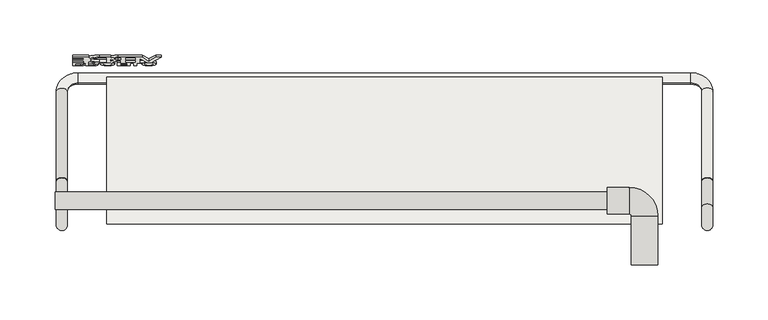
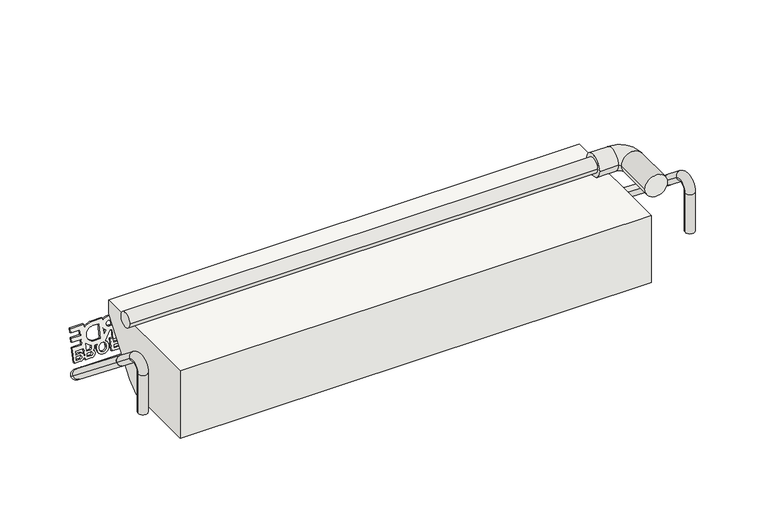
"""IFC4 building model written with IfcOpenShell, lengths in millimetres: covering geometry, panel VP Modulo prova ultima texture : panel VP Modulo prova ultima texture."""

from ifc_helpers import new_model, si_unit, point, frame, frame_2d, origin, place, context, project, spatial, polyline, circle_curve, ellipse_curve, trimmed, segment, composite_curve, outline, extrude, source, transform, mapped, element, save
from ifc_brep_helpers import plane_surface, cylinder_surface, revolved_surface, advanced_brep


def covering_7bb15b48(model_context):
    return source(origin(), model_context, "Body", "SolidModel", [
        extrude(outline(composite_curve([segment(polyline([(34.7220757, 1e-07), (58.7996812, 1e-07)]), True, "CONTINUOUS"), segment(trimmed(circle_curve(frame_2d((65.0642789, 0.6025231)), 6.293506), [point((58.7996812, 1e-07))], [point((63.4156114, 6.6762463))], False, "CARTESIAN"), True, "CONTINUOUS"), segment(trimmed(circle_curve(frame_2d((65.6666707, 0.6823429)), 6.4026671), [point((63.4156114, 6.6762463))], [point((68.2653756, -5.1692277))], False, "CARTESIAN"), True, "CONTINUOUS"), segment(trimmed(circle_curve(frame_2d((65.2033193, 0.2002614)), 6.1812298), [point((68.2653756, -5.1692277))], [point((64.2093266, -5.9005239))], False, "CARTESIAN"), True, "CONTINUOUS"), segment(polyline([(64.2093266, -5.9005239), (66.3168223, -11.0476864), (75.8016954, -7.1641235), (76.862281, -9.7544045), (66.3136897, -14.0735049), (67.4636632, -16.8820993), (78.0122546, -12.5629989), (79.0728401, -15.1532799), (68.5242488, -19.4723803), (70.7348079, -24.8712557), (61.6931831, -28.5733316), (62.6270622, -30.8541559), (73.074875, -33.0832315)]), True, "CONTINUOUS"), segment(trimmed(circle_curve(frame_2d((79.2445531, -34.0648778)), 6.247284), [point((73.074875, -33.0832315))], [point((77.6263487, -28.0308102))], False, "CARTESIAN"), True, "CONTINUOUS"), segment(trimmed(circle_curve(frame_2d((79.877408, -34.0247135)), 6.4026671), [point((77.6263487, -28.0308102))], [point((82.4790998, -39.8749568))], False, "CARTESIAN"), True, "CONTINUOUS"), segment(trimmed(circle_curve(frame_2d((79.4067188, -34.4842118)), 6.2048092), [point((82.4790998, -39.8749568))], [point((77.0112197, -40.2079554))], False, "CARTESIAN"), True, "CONTINUOUS"), segment(polyline([(77.0112197, -40.2079554), (78.1993614, -43.1097684)]), True, "CONTINUOUS"), segment(trimmed(circle_curve(frame_2d((66.5130174, -47.6019204)), 12.5199867), [point((78.1993614, -43.1097684))], [point((78.4709528, -43.8927628))], False, "CARTESIAN"), True, "CONTINUOUS"), segment(polyline([(78.4709528, -43.8927628), (79.5384706, -43.4513167)]), True, "CONTINUOUS"), segment(trimmed(circle_curve(frame_2d((81.1236563, -46.5289178)), 3.4618554), [point((79.5384706, -43.4513167))], [point((83.2640668, -43.8080565))], False, "CARTESIAN"), True, "CONTINUOUS"), segment(trimmed(circle_curve(frame_2d((86.9930546, -44.5041075)), 3.7933939), [point((83.2640668, -43.8080565))], [point((90.5427255, -43.1663204))], False, "CARTESIAN"), True, "CONTINUOUS"), segment(polyline([(90.5427255, -43.1663204), (93.2835774, -49.8603364), (82.7349861, -54.1794367), (86.0955188, -62.3869066), (89.2825225, -61.0819941), (87.602256, -56.9782588)]), True, "CONTINUOUS"), segment(trimmed(circle_curve(frame_2d((91.2496312, -55.4763574)), 3.9444966), [point((87.602256, -56.9782588))], [point((87.6394877, -53.887044))], False, "CARTESIAN"), True, "CONTINUOUS"), segment(trimmed(circle_curve(frame_2d((91.0795376, -55.4029608)), 3.7592483), [point((87.6394877, -53.887044))], [point((89.8068057, -51.8657159))], False, "CARTESIAN"), True, "CONTINUOUS"), segment(trimmed(circle_curve(frame_2d((91.3826275, -55.3791794)), 3.8506675), [point((89.8068057, -51.8657159))], [point((94.9638437, -53.9640712))], False, "CARTESIAN"), True, "CONTINUOUS"), segment(polyline([(94.9638437, -53.9640712), (97.7046957, -60.6580873), (83.1186527, -66.6303144), (79.3291228, -57.3750995), (74.3249248, -59.4240587), (78.1144547, -68.6792736), (74.077003, -70.3324004), (70.2874731, -61.0771855), (65.283275, -63.1261447), (69.0728049, -72.3813597), (65.0353533, -74.0344865), (59.5536495, -60.6464545), (63.573194, -59.0006598)]), True, "CONTINUOUS"), segment(trimmed(circle_curve(frame_2d((67.4307018, -47.253167)), 12.364625), [point((63.573194, -59.0006598))], [point((55.9786182, -51.9151121))], False, "CARTESIAN"), True, "CONTINUOUS"), segment(polyline([(55.9786182, -51.9151121), (51.9745896, -42.1360244), (54.8949193, -40.940301)]), True, "CONTINUOUS"), segment(trimmed(circle_curve(frame_2d((56.8950264, -33.2916253)), 7.9058629), [point((54.8949193, -40.940301))], [point((49.6285766, -36.4063284))], False, "CARTESIAN"), True, "CONTINUOUS"), segment(polyline([(49.6285766, -36.4063284), (41.3068641, -16.0821087), (53.1289126, -4.45118), (36.5446028, -4.4511801), (34.7220757, 1e-07)]), True, "CONTINUOUS")], self_intersect=False), holes=[composite_curve([segment(polyline([(91.3698144, -60.2273564), (94.5568181, -58.9224439), (93.0429626, -55.2251362)]), True, "CONTINUOUS"), segment(trimmed(circle_curve(frame_2d((91.4494608, -55.8775924)), 1.7219023), [point((93.0429626, -55.2251362))], [point((89.8559589, -56.5300487))], True, "CARTESIAN"), True, "CONTINUOUS"), segment(polyline([(89.8559589, -56.5300487), (91.3698144, -60.2273564)]), True, "CONTINUOUS")], self_intersect=False), composite_curve([segment(polyline([(77.6536647, -53.2354382), (84.8614042, -50.2842432), (83.4804082, -46.9114198)]), True, "CONTINUOUS"), segment(trimmed(circle_curve(frame_2d((82.0055188, -47.9798171)), 1.8212006), [point((83.4804082, -46.9114198))], [point((81.4459172, -46.2467223))], True, "CARTESIAN"), True, "CONTINUOUS"), segment(polyline([(81.4459172, -46.2467223), (79.005401, -46.7813864)]), True, "CONTINUOUS"), segment(trimmed(circle_curve(frame_2d((66.800009, -47.5936694)), 12.2323913), [point((79.005401, -46.7813864))], [point((77.6536647, -53.2354382))], False, "CARTESIAN"), True, "CONTINUOUS")], self_intersect=False), composite_curve([segment(polyline([(80.0469884, -37.8463889), (81.818283, -37.1211357)]), True, "CONTINUOUS"), segment(trimmed(circle_curve(frame_2d((80.3714599, -33.822414)), 3.6020635), [point((81.818283, -37.1211357))], [point((79.0874461, -30.4569764))], True, "CARTESIAN"), True, "CONTINUOUS"), segment(polyline([(79.0874461, -30.4569764), (77.318043, -31.1814551)]), True, "CONTINUOUS"), segment(trimmed(circle_curve(frame_2d((78.7640582, -34.4805345)), 3.6020668), [point((77.318043, -31.1814551))], [point((80.0469884, -37.8463889))], True, "CARTESIAN"), True, "CONTINUOUS")], self_intersect=False), composite_curve([segment(polyline([(64.8767089, 4.25008), (63.1073057, 3.5256013)]), True, "CONTINUOUS"), segment(trimmed(circle_curve(frame_2d((64.5533209, 0.2265218)), 3.6020668), [point((63.1073057, 3.5256013))], [point((65.8362512, -3.1393324))], True, "CARTESIAN"), True, "CONTINUOUS"), segment(polyline([(65.8362512, -3.1393324), (67.6075457, -2.4140793)]), True, "CONTINUOUS"), segment(trimmed(circle_curve(frame_2d((66.1607226, 0.8846424)), 3.6020635), [point((67.6075457, -2.4140793))], [point((64.8767089, 4.25008))], True, "CARTESIAN"), True, "CONTINUOUS")], self_intersect=False), composite_curve([segment(polyline([(49.3862171, -14.3776131), (62.966359, -8.8172502), (61.7031824, -5.7321785), (62.543491, -5.3881158)]), True, "CONTINUOUS"), segment(trimmed(circle_curve(frame_2d((65.2914898, 0.489271)), 6.4880792), [point((62.543491, -5.3881158))], [point((60.2929855, -3.647168))], False, "CARTESIAN"), True, "CONTINUOUS"), segment(polyline([(60.2929855, -3.647168), (49.3862171, -14.3776131)]), True, "CONTINUOUS")], self_intersect=False), polyline([(47.598802, -19.9351411), (50.9593347, -28.1426109), (55.9635327, -26.0936517), (52.603, -17.8861818), (47.598802, -19.9351411)]), polyline([(60.0009844, -24.4405249), (65.0051824, -22.3915657), (61.6446497, -14.1840958), (56.6404517, -16.233055), (60.0009844, -24.4405249)]), composite_curve([segment(polyline([(52.6514048, -32.2754702), (53.692025, -34.8169896)]), True, "CONTINUOUS"), segment(trimmed(circle_curve(frame_2d((56.2265541, -33.8697215)), 2.7057631), [point((53.692025, -34.8169896))], [point((58.6823172, -32.7337722))], True, "CARTESIAN"), True, "CONTINUOUS"), segment(polyline([(58.6823172, -32.7337722), (57.6557066, -30.2264686), (52.6514048, -32.2754702)]), True, "CONTINUOUS")], self_intersect=False), composite_curve([segment(polyline([(62.001845, -38.030384), (66.4600603, -36.2049764), (63.0935891, -35.4866796)]), True, "CONTINUOUS"), segment(trimmed(circle_curve(frame_2d((53.8245829, -33.0146099)), 9.5929977), [point((63.0935891, -35.4866796))], [point((62.001845, -38.030384))], False, "CARTESIAN"), True, "CONTINUOUS")], self_intersect=False), composite_curve([segment(polyline([(57.7042151, -44.6157146), (60.0160697, -50.2619853)]), True, "CONTINUOUS"), segment(trimmed(circle_curve(frame_2d((67.1061304, -47.5504315)), 7.5908816), [point((60.0160697, -50.2619853))], [point((74.0619175, -44.51094))], True, "CARTESIAN"), True, "CONTINUOUS"), segment(polyline([(74.0619175, -44.51094), (71.7500629, -38.8646693), (57.7042151, -44.6157146)]), True, "CONTINUOUS")], self_intersect=False), composite_curve([segment(polyline([(86.9486962, -49.4296055), (90.1356999, -48.124693), (88.6218444, -44.4273853)]), True, "CONTINUOUS"), segment(trimmed(circle_curve(frame_2d((87.0283425, -45.0798416)), 1.7219023), [point((88.6218444, -44.4273853))], [point((85.4348407, -45.7322978))], True, "CARTESIAN"), True, "CONTINUOUS"), segment(polyline([(85.4348407, -45.7322978), (86.9486962, -49.4296055)]), True, "CONTINUOUS")], self_intersect=False)]), frame((-189.083657, 210.3688908, 479.4713363), z_axis=(0.0, -0.9769248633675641, 0.21358326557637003), x_axis=(-0.3789159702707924, -0.19765659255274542, -0.9040766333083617)), (0.0, 0.0, 1.0), 2.0),
        extrude(outline(polyline([(76.2116947, -23.2064962), (79.3986984, -21.9015837), (77.1881392, -16.5027082), (79.2754312, -15.6480706), (82.5465759, -23.6372271), (70.9744162, -28.3754256), (69.9138306, -25.7851445), (74.1244027, -24.0611338), (71.9138436, -18.6622584), (74.0011355, -17.8076207), (76.2116947, -23.2064962)])), frame((-189.083657, 210.3688908, 479.4713363), z_axis=(0.0, -0.9769248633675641, 0.21358326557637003), x_axis=(-0.3789159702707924, -0.19765659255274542, -0.9040766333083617)), (0.0, 0.0, 1.0), 2.0),
        advanced_brep(
        [(-298.2404059, 63.5015434, 543.1813202), (-298.2404059, 79.5015434, 543.1813202), (201.5404059, 63.5015434, 543.1813202), (201.5404059, 79.5015434, 543.1813202), (201.5404059, 59.5015434, 543.1813202), (201.5404059, 83.5015434, 543.1813202), (221.5404059, 59.5015434, 543.1813202), (221.5404059, 83.5015434, 543.1813202), (223.5404059, 57.5015434, 543.1813202), (247.5404059, 57.5015434, 543.1813202), (223.5404059, 13.5015434, 543.1813202), (247.5404059, 13.5015434, 543.1813202)],
        [
            (0, 1, circle_curve(frame((-298.2404059, 71.5015434, 543.1813202), z_axis=(-1.0, 0.0, 0.0), x_axis=(0.0, 1.0, 0.0)), 8.0)),
            (1, 0, circle_curve(frame((-298.2404059, 71.5015434, 543.1813202), z_axis=(-1.0, 0.0, 0.0), x_axis=(0.0, 1.0, 0.0)), 8.0)),
            (0, 2),
            (2, 3, circle_curve(frame((201.5404059, 71.5015434, 543.1813202), z_axis=(-1.0, 0.0, 0.0), x_axis=(0.0, 1.0, 0.0)), 8.0)),
            (3, 1),
            (3, 2, circle_curve(frame((201.5404059, 71.5015434, 543.1813202), z_axis=(-1.0, 0.0, 0.0), x_axis=(0.0, 1.0, 0.0)), 8.0)),
            (4, 5, circle_curve(frame((201.5404059, 71.5015434, 543.1813202), z_axis=(-1.0, 0.0, 0.0), x_axis=(0.0, 1.0, 0.0)), 12.0)),
            (5, 4, circle_curve(frame((201.5404059, 71.5015434, 543.1813202), z_axis=(-1.0, 0.0, 0.0), x_axis=(0.0, 1.0, 0.0)), 12.0)),
            (4, 6),
            (6, 7, circle_curve(frame((221.5404059, 71.5015434, 543.1813202), z_axis=(-1.0, 0.0, 0.0), x_axis=(0.0, 1.0, 0.0)), 12.0)),
            (7, 5),
            (7, 6, circle_curve(frame((221.5404059, 71.5015434, 543.1813202), z_axis=(-1.0, 0.0, 0.0), x_axis=(0.0, 1.0, 0.0)), 12.0)),
            (6, 8, circle_curve(frame((221.5404059, 57.5015434, 543.1813202), z_axis=(0.0, 0.0, -1.0), x_axis=(0.0, 1.0, 0.0)), 2.0)),
            (8, 9, circle_curve(frame((235.5404059, 57.5015434, 543.1813202), z_axis=(0.0, 1.0, 0.0), x_axis=(1.0, 0.0, 0.0)), 12.0)),
            (9, 7, circle_curve(frame((221.5404059, 57.5015434, 543.1813202), z_axis=(0.0, 0.0, 1.0), x_axis=(0.0, 1.0, 0.0)), 26.0)),
            (9, 8, circle_curve(frame((235.5404059, 57.5015434, 543.1813202), z_axis=(0.0, 1.0, 0.0), x_axis=(1.0, 0.0, 0.0)), 12.0)),
            (10, 11, circle_curve(frame((235.5404059, 13.5015434, 543.1813202), z_axis=(0.0, -1.0, 0.0), x_axis=(1.0, 0.0, 0.0)), 12.0)),
            (11, 10, circle_curve(frame((235.5404059, 13.5015434, 543.1813202), z_axis=(0.0, -1.0, 0.0), x_axis=(1.0, 0.0, 0.0)), 12.0)),
            (8, 10),
            (11, 9),
        ],
        [
            plane_surface(frame((-298.2404059, 63.5015434, 543.1813202), z_axis=(-1.0, 0.0, 0.0), x_axis=(0.0, 0.0, 1.0))),
            cylinder_surface(frame((-298.2404059, 71.5015434, 543.1813202), z_axis=(-1.0, 0.0, 0.0), x_axis=(0.0, 1.0, 0.0)), 8.0),
            plane_surface(frame((201.5404059, 63.5015434, 543.1813202), z_axis=(-1.0, 0.0, 0.0), x_axis=(0.0, 0.0, 1.0))),
            cylinder_surface(frame((201.5404059, 71.5015434, 543.1813202), z_axis=(-1.0, 0.0, 0.0), x_axis=(0.0, 1.0, 0.0)), 12.0),
            revolved_surface(trimmed(ellipse_curve(frame((221.5404059, 71.5015434, 543.1813202), z_axis=(-1.0, 0.0, 0.0), x_axis=(0.0, 1.0, 0.0)), 12.0, 12.0), [point((221.5404059, 59.5015434, 543.1813202))], [point((221.5404059, 83.5015434, 543.1813202))], True, "CARTESIAN"), (221.5404059, 57.5015434, 543.1813202), (0.0, 0.0, -1.0)),
            revolved_surface(trimmed(ellipse_curve(frame((221.5404059, 71.5015434, 543.1813202), z_axis=(-1.0, 0.0, 0.0), x_axis=(0.0, 1.0, 0.0)), 12.0, 12.0), [point((221.5404059, 83.5015434, 543.1813202))], [point((221.5404059, 59.5015434, 543.1813202))], True, "CARTESIAN"), (221.5404059, 57.5015434, 543.1813202), (0.0, 0.0, -1.0)),
            plane_surface(frame((227.5404059, 13.5015434, 543.1813202), z_axis=(0.0, -1.0, 0.0), x_axis=(0.0, 0.0, 1.0))),
            cylinder_surface(frame((235.5404059, 57.5015434, 543.1813202), z_axis=(0.0, 1.0, 0.0), x_axis=(1.0, 0.0, 0.0)), 12.0),
        ],
        [
            (0, [[1, 2]]),
            (1, [[-1, 3, 4, 5]]),
            (1, [[-2, -5, 6, -3]]),
            (2, [[7, 8], [-4, -6]]),
            (3, [[-7, 9, 10, 11]]),
            (3, [[-8, -11, 12, -9]]),
            (4, [[-10, 13, 14, 15]]),
            (5, [[-12, -15, 16, -13]]),
            (6, [[17, 18]]),
            (7, [[-14, 19, -18, 20]]),
            (7, [[-16, -20, -17, -19]]),
        ],
    ),
        advanced_brep(
        [(297.2404059, 89.2250572, 483.983262), (287.2404059, 89.2251428, 483.9833699), (297.2404059, 170.6491384, 419.463417), (287.2404059, 170.6492239, 419.463525), (277.2404059, 178.4869122, 413.2529982), (277.2404059, 186.324515, 407.0423635), (-277.2404059, 186.324515, 407.0423635), (-277.2404059, 178.4869122, 413.2529982), (-287.2404059, 170.6492239, 419.463525), (-297.2404059, 170.6491384, 419.463417), (-297.2404059, 89.2250494, 483.9832681), (-287.2404059, 89.225135, 483.9833761)],
        [
            (0, 1, circle_curve(frame((292.2404059, 89.2250572, 483.983262), z_axis=(0.0, -0.7837688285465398, 0.6210526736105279), x_axis=(1.0, 0.0, 0.0)), 5.0)),
            (1, 0, circle_curve(frame((292.2404059, 89.2250572, 483.983262), z_axis=(0.0, -0.7837688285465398, 0.6210526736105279), x_axis=(1.0, 0.0, 0.0)), 5.0)),
            (0, 2),
            (2, 3, circle_curve(frame((292.2404059, 170.6491384, 419.463417), z_axis=(0.0, -0.7837688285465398, 0.6210526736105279), x_axis=(1.0, 0.0, 0.0)), 5.0)),
            (3, 1),
            (3, 2, circle_curve(frame((292.2404059, 170.6491384, 419.463417), z_axis=(0.0, -0.7837688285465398, 0.6210526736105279), x_axis=(1.0, 0.0, 0.0)), 5.0)),
            (4, 3, circle_curve(frame((277.2404059, 170.6492239, 419.463525), z_axis=(0.0, -0.6210526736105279, -0.7837688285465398), x_axis=(1.0, 0.0, 0.0)), 10.0)),
            (2, 5, circle_curve(frame((277.2404059, 170.6491384, 419.463417), z_axis=(0.0, 0.6210526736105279, 0.7837688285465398), x_axis=(1.0, 0.0, 0.0)), 20.0)),
            (5, 4, circle_curve(frame((277.2404059, 182.4056708, 410.1476269), z_axis=(1.0, 0.0, 0.0), x_axis=(0.0, 0.7837688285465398, -0.6210526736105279)), 5.0)),
            (4, 5, circle_curve(frame((277.2404059, 182.4056708, 410.1476269), z_axis=(1.0, 0.0, 0.0), x_axis=(0.0, 0.7837688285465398, -0.6210526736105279)), 5.0)),
            (5, 6),
            (6, 7, circle_curve(frame((-277.2404059, 182.4056708, 410.1476269), z_axis=(1.0, 0.0, 0.0), x_axis=(0.0, 0.7837688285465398, -0.6210526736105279)), 5.0)),
            (7, 4),
            (7, 6, circle_curve(frame((-277.2404059, 182.4056708, 410.1476269), z_axis=(1.0, 0.0, 0.0), x_axis=(0.0, 0.7837688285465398, -0.6210526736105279)), 5.0)),
            (8, 7, circle_curve(frame((-277.2404059, 170.6492239, 419.463525), z_axis=(0.0, -0.6210526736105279, -0.7837688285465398), x_axis=(0.0, 0.7837688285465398, -0.6210526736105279)), 10.0)),
            (6, 9, circle_curve(frame((-277.2404059, 170.6491384, 419.463417), z_axis=(0.0, 0.6210526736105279, 0.7837688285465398), x_axis=(0.0, 0.7837688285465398, -0.6210526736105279)), 20.0)),
            (9, 8, circle_curve(frame((-292.2404059, 170.6491384, 419.463417), z_axis=(0.0, 0.7837688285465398, -0.6210526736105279), x_axis=(-1.0000000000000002, 0.0, 0.0)), 5.0)),
            (8, 9, circle_curve(frame((-292.2404059, 170.6491384, 419.463417), z_axis=(0.0, 0.7837688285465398, -0.6210526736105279), x_axis=(-1.0000000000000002, 0.0, 0.0)), 5.0)),
            (10, 11, circle_curve(frame((-292.2404059, 89.2250494, 483.9832681), z_axis=(0.0, -0.7837688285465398, 0.6210526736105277), x_axis=(-1.0, 0.0, 0.0)), 5.0)),
            (11, 10, circle_curve(frame((-292.2404059, 89.2250494, 483.9832681), z_axis=(0.0, -0.7837688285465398, 0.6210526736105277), x_axis=(-1.0, 0.0, 0.0)), 5.0)),
            (9, 10),
            (11, 8),
        ],
        [
            plane_surface(frame((287.2404059, 92.3304015, 487.9022082), z_axis=(0.0, -0.7837688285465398, 0.6210526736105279), x_axis=(0.0, -0.6210526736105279, -0.7837688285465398))),
            cylinder_surface(frame((292.2404059, 89.2250572, 483.983262), z_axis=(0.0, -0.7837688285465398, 0.6210526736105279), x_axis=(1.0, 0.0, 0.0)), 5.0),
            revolved_surface(trimmed(ellipse_curve(frame((292.2404059, 170.6491384, 419.463417), z_axis=(0.0, -0.7837688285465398, 0.6210526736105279), x_axis=(1.0, 0.0, 0.0)), 5.0, 5.0), [point((297.2404059, 170.6491384, 419.463417))], [point((287.2404059, 170.6492239, 419.463525))], True, "CARTESIAN"), (277.2404059, 173.7544827, 423.3823633), (0.0, 0.6210526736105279, 0.7837688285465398)),
            revolved_surface(trimmed(ellipse_curve(frame((292.2404059, 170.6491384, 419.463417), z_axis=(0.0, -0.7837688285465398, 0.6210526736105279), x_axis=(1.0, 0.0, 0.0)), 5.0, 5.0), [point((287.2404059, 170.6492239, 419.463525))], [point((297.2404059, 170.6491384, 419.463417))], True, "CARTESIAN"), (277.2404059, 173.7544827, 423.3823633), (0.0, 0.6210526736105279, 0.7837688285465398)),
            cylinder_surface(frame((277.2404059, 182.4056708, 410.1476269), z_axis=(1.0000000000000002, 0.0, 0.0), x_axis=(0.0, 0.7837688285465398, -0.6210526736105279)), 5.0),
            revolved_surface(trimmed(ellipse_curve(frame((-277.2404059, 182.4056708, 410.1476269), z_axis=(1.0000000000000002, 0.0, 0.0), x_axis=(0.0, 0.7837688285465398, -0.6210526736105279)), 5.0, 5.0), [point((-277.2404059, 186.324515, 407.0423635))], [point((-277.2404059, 178.4869122, 413.2529982))], True, "CARTESIAN"), (-277.2404059, 173.7544827, 423.3823633), (0.0, 0.6210526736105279, 0.7837688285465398)),
            revolved_surface(trimmed(ellipse_curve(frame((-277.2404059, 182.4056708, 410.1476269), z_axis=(1.0000000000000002, 0.0, 0.0), x_axis=(0.0, 0.7837688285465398, -0.6210526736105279)), 5.0, 5.0), [point((-277.2404059, 178.4869122, 413.2529982))], [point((-277.2404059, 186.324515, 407.0423635))], True, "CARTESIAN"), (-277.2404059, 173.7544827, 423.3823633), (0.0, 0.6210526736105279, 0.7837688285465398)),
            plane_surface(frame((-287.2404059, 92.3303937, 487.9022144), z_axis=(0.0, -0.7837688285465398, 0.6210526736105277), x_axis=(0.0, -0.6210526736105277, -0.7837688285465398))),
            cylinder_surface(frame((-292.2404059, 170.6491384, 419.463417), z_axis=(0.0, 0.7837688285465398, -0.6210526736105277), x_axis=(-1.0, 0.0, 0.0)), 5.0),
        ],
        [
            (0, [[1, 2]]),
            (1, [[-1, 3, 4, 5]]),
            (1, [[-2, -5, 6, -3]]),
            (2, [[7, -4, 8, 9]]),
            (3, [[-8, -6, -7, 10]]),
            (4, [[-9, 11, 12, 13]]),
            (4, [[-10, -13, 14, -11]]),
            (5, [[15, -12, 16, 17]]),
            (6, [[-16, -14, -15, 18]]),
            (7, [[19, 20]]),
            (8, [[-17, 21, -20, 22]]),
            (8, [[-18, -22, -19, -21]]),
        ],
    ),
        advanced_brep(
        [(-287.2404059, 89.225135, 483.9833761), (-297.2404059, 89.225135, 483.9833761), (-297.2404059, 65.7120701, 502.6149563), (-287.2404059, 65.7120701, 502.6149563), (-287.2404059, 49.5015434, 494.777268), (-297.2404059, 49.5015434, 494.777268), (-287.2404059, 49.5015434, 450.4751228), (-297.2404059, 49.5015434, 450.4751228)],
        [
            (0, 1, circle_curve(frame((-292.2404059, 89.225135, 483.9833761), z_axis=(0.0, 0.7837688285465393, -0.6210526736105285), x_axis=(-1.0, 0.0, 0.0)), 5.0)),
            (1, 0, circle_curve(frame((-292.2404059, 89.225135, 483.9833761), z_axis=(0.0, 0.7837688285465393, -0.6210526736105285), x_axis=(-1.0, 0.0, 0.0)), 5.0)),
            (1, 2),
            (2, 3, circle_curve(frame((-292.2404059, 65.7120701, 502.6149563), z_axis=(0.0, 0.7837688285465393, -0.6210526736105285), x_axis=(-1.0, 0.0, 0.0)), 5.0)),
            (3, 0),
            (3, 2, circle_curve(frame((-292.2404059, 65.7120701, 502.6149563), z_axis=(0.0, 0.7837688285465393, -0.6210526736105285), x_axis=(-1.0, 0.0, 0.0)), 5.0)),
            (4, 3, circle_curve(frame((-287.2404059, 59.5015434, 494.777268), z_axis=(-1.0, 0.0, 0.0), x_axis=(0.0, 0.6210526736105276, 0.78376882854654)), 10.0)),
            (2, 5, circle_curve(frame((-297.2404059, 59.5015434, 494.777268), z_axis=(1.0, 0.0, 0.0), x_axis=(0.0, 0.6210526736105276, 0.78376882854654)), 10.0)),
            (5, 4, circle_curve(frame((-292.2404059, 49.5015434, 494.777268), z_axis=(0.0, 0.0, 1.0), x_axis=(-1.0, 0.0, 0.0)), 5.0)),
            (4, 5, circle_curve(frame((-292.2404059, 49.5015434, 494.777268), z_axis=(0.0, 0.0, 1.0), x_axis=(-1.0, 0.0, 0.0)), 5.0)),
            (6, 7, circle_curve(frame((-292.2404059, 49.5015434, 450.4751228), z_axis=(0.0, 0.0, -1.0), x_axis=(-1.0, 0.0, 0.0)), 5.0)),
            (7, 6, circle_curve(frame((-292.2404059, 49.5015434, 450.4751228), z_axis=(0.0, 0.0, -1.0), x_axis=(-1.0, 0.0, 0.0)), 5.0)),
            (5, 7),
            (6, 4),
        ],
        [
            plane_surface(frame((-287.2404059, 89.225135, 483.9833761), z_axis=(0.0, 0.7837688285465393, -0.6210526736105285), x_axis=(-1.0, 0.0, 0.0))),
            cylinder_surface(frame((-292.2404059, 89.225135, 483.9833761), z_axis=(0.0, 0.7837688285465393, -0.6210526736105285), x_axis=(-1.0, 0.0, 0.0)), 5.0),
            revolved_surface(trimmed(ellipse_curve(frame((-292.2404059, 65.7120701, 502.6149563), z_axis=(0.0, 0.78376882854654, -0.6210526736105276), x_axis=(-1.0, 0.0, 0.0)), 5.0, 5.0), [point((-297.2404059, 65.7120701, 502.6149563))], [point((-287.2404059, 65.7120701, 502.6149563))], True, "CARTESIAN"), (-287.2404059, 59.5015434, 494.777268), (1.0, 0.0, 0.0)),
            revolved_surface(trimmed(ellipse_curve(frame((-292.2404059, 65.7120701, 502.6149563), z_axis=(0.0, 0.78376882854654, -0.6210526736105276), x_axis=(-1.0, 0.0, 0.0)), 5.0, 5.0), [point((-287.2404059, 65.7120701, 502.6149563))], [point((-297.2404059, 65.7120701, 502.6149563))], True, "CARTESIAN"), (-287.2404059, 59.5015434, 494.777268), (1.0, 0.0, 0.0)),
            plane_surface(frame((-287.2404059, 49.5015434, 450.4751228), z_axis=(0.0, 0.0, -1.0), x_axis=(-1.0, 0.0, 0.0))),
            cylinder_surface(frame((-292.2404059, 49.5015434, 494.777268), z_axis=(0.0, 0.0, 1.0), x_axis=(-1.0, 0.0, 0.0)), 5.0),
        ],
        [
            (0, [[1, 2]]),
            (1, [[-2, 3, 4, 5]]),
            (1, [[-1, -5, 6, -3]]),
            (2, [[7, -4, 8, 9]]),
            (3, [[-8, -6, -7, 10]]),
            (4, [[11, 12]]),
            (5, [[-9, 13, -11, 14]]),
            (5, [[-10, -14, -12, -13]]),
        ],
    ),
        advanced_brep(
        [(287.2404059, 89.2251242, 483.9833465), (297.2404059, 89.2251242, 483.9833465), (287.2404059, 65.7120779, 502.6149501), (297.2404059, 65.7120779, 502.6149501), (297.2404059, 49.5015434, 494.777268), (287.2404059, 49.5015434, 494.777268), (287.2404059, 49.5015434, 450.4751228), (297.2404059, 49.5015434, 450.4751228)],
        [
            (0, 1, circle_curve(frame((292.2404059, 89.2251242, 483.9833465), z_axis=(0.0, 0.7837682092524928, -0.621053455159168), x_axis=(1.0, 0.0, 0.0)), 5.0)),
            (1, 0, circle_curve(frame((292.2404059, 89.2251242, 483.9833465), z_axis=(0.0, 0.7837682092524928, -0.621053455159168), x_axis=(1.0, 0.0, 0.0)), 5.0)),
            (0, 2),
            (2, 3, circle_curve(frame((292.2404059, 65.7120779, 502.6149501), z_axis=(0.0, 0.7837682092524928, -0.621053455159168), x_axis=(1.0, 0.0, 0.0)), 5.0)),
            (3, 1),
            (3, 2, circle_curve(frame((292.2404059, 65.7120779, 502.6149501), z_axis=(0.0, 0.7837682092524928, -0.621053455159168), x_axis=(1.0, 0.0, 0.0)), 5.0)),
            (4, 3, circle_curve(frame((297.2404059, 59.5015434, 494.777268), z_axis=(-1.0, 0.0, 0.0), x_axis=(0.0, 0.6210534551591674, 0.7837682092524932)), 10.0)),
            (2, 5, circle_curve(frame((287.2404059, 59.5015434, 494.777268), z_axis=(1.0, 0.0, 0.0), x_axis=(0.0, 0.6210534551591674, 0.7837682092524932)), 10.0)),
            (5, 4, circle_curve(frame((292.2404059, 49.5015434, 494.777268), z_axis=(0.0, 0.0, 1.0), x_axis=(1.0, 0.0, 0.0)), 5.0)),
            (4, 5, circle_curve(frame((292.2404059, 49.5015434, 494.777268), z_axis=(0.0, 0.0, 1.0), x_axis=(1.0, 0.0, 0.0)), 5.0)),
            (6, 7, circle_curve(frame((292.2404059, 49.5015434, 450.4751228), z_axis=(0.0, 0.0, -1.0), x_axis=(1.0, 0.0, 0.0)), 5.0)),
            (7, 6, circle_curve(frame((292.2404059, 49.5015434, 450.4751228), z_axis=(0.0, 0.0, -1.0), x_axis=(1.0, 0.0, 0.0)), 5.0)),
            (5, 6),
            (7, 4),
        ],
        [
            plane_surface(frame((287.2404059, 89.2251242, 483.9833465), z_axis=(0.0, 0.7837682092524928, -0.621053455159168), x_axis=(1.0, 0.0, 0.0))),
            cylinder_surface(frame((292.2404059, 89.2251242, 483.9833465), z_axis=(0.0, 0.7837682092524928, -0.621053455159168), x_axis=(1.0, 0.0, 0.0)), 5.0),
            revolved_surface(trimmed(ellipse_curve(frame((292.2404059, 65.7120779, 502.6149501), z_axis=(0.0, 0.7837682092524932, -0.6210534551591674), x_axis=(1.0, 0.0, 0.0)), 5.0, 5.0), [point((287.2404059, 65.7120779, 502.6149501))], [point((297.2404059, 65.7120779, 502.6149501))], True, "CARTESIAN"), (287.2404059, 59.5015434, 494.777268), (1.0, 0.0, 0.0)),
            revolved_surface(trimmed(ellipse_curve(frame((292.2404059, 65.7120779, 502.6149501), z_axis=(0.0, 0.7837682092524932, -0.6210534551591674), x_axis=(1.0, 0.0, 0.0)), 5.0, 5.0), [point((297.2404059, 65.7120779, 502.6149501))], [point((287.2404059, 65.7120779, 502.6149501))], True, "CARTESIAN"), (287.2404059, 59.5015434, 494.777268), (1.0, 0.0, 0.0)),
            plane_surface(frame((287.2404059, 49.5015434, 450.4751228), z_axis=(0.0, 0.0, -1.0), x_axis=(1.0, 0.0, 0.0))),
            cylinder_surface(frame((292.2404059, 49.5015434, 494.777268), z_axis=(0.0, 0.0, 1.0), x_axis=(1.0, 0.0, 0.0)), 5.0),
        ],
        [
            (0, [[1, 2]]),
            (1, [[-1, 3, 4, 5]]),
            (1, [[-2, -5, 6, -3]]),
            (2, [[7, -4, 8, 9]]),
            (3, [[-8, -6, -7, 10]]),
            (4, [[11, 12]]),
            (5, [[-9, 13, -12, 14]]),
            (5, [[-10, -14, -11, -13]]),
        ],
    ),
        extrude(outline(polyline([(132.1625373, 405.5216565), (50.5015434, 405.5216565), (50.5015434, 481.5216565), (183.4941844, 481.5216565), (183.4941844, 465.8549334), (143.8388149, 415.8098381), (132.1625373, 405.5216565)])), frame((-251.5404059, 0.0, 0.0), z_axis=(1.0, 0.0, 0.0), x_axis=(0.0, 1.0, 0.0)), (0.0, 0.0, 1.0), 503.0808119),
    ])


if __name__ == "__main__":
    model = new_model("IFC4")
    model_context = context("Model", 3, world=origin())
    ifc_project = project(units=[si_unit("LENGTHUNIT", "METRE", prefix="MILLI")], contexts=[model_context])
    site = spatial("IfcSite", under=ifc_project)
    building = spatial("IfcBuilding", under=site)
    placement = place(None, origin())
    covering_shape = covering_7bb15b48(model_context)
    element("IfcCovering", 1, ObjectType="panel VP Modulo prova ultima texture : panel VP Modulo prova ultima texture", at=placement, inside=building, context=model_context, shape_type="MappedRepresentation", body=[
        mapped(covering_shape, transform((0.0, 0.0, 0.0), x_axis=(1.0, 0.0, 0.0), y_axis=(0.0, 1.0, 0.0), z_axis=(0.0, 0.0, 1.0))),
    ])
    save(model, "model.ifc")
